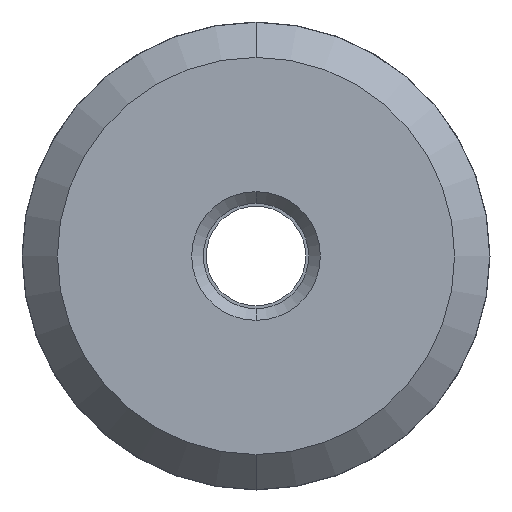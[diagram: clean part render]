
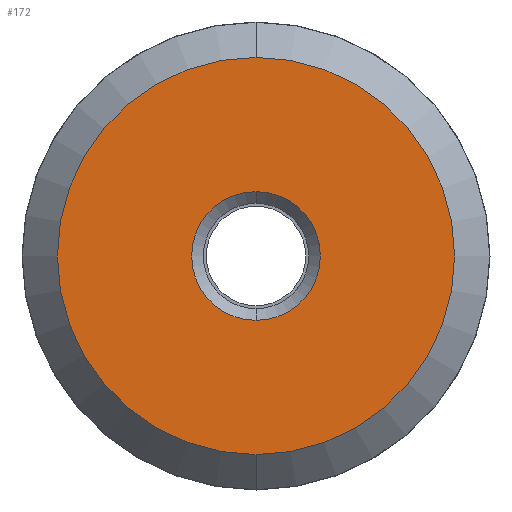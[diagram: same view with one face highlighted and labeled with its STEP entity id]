
A CAD part, front view. The second image highlights one B-rep face of the part: STEP entity #172.
In plain terms, the highlighted planar face has unit normal (0, -1, 0).
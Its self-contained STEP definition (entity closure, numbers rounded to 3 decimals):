
#70=CARTESIAN_POINT('Vertex',(0.,0.,5.5)) ;
#73=CARTESIAN_POINT('Axis2P3D Location',(0.,0.,0.)) ;
#77=CARTESIAN_POINT('Vertex',(0.,0.,-5.5)) ;
#133=CARTESIAN_POINT('Axis2P3D Location',(0.,0.,0.)) ;
#145=CARTESIAN_POINT('Axis2P3D Location',(0.,0.,0.)) ;
#150=CARTESIAN_POINT('Axis2P3D Location',(0.,0.,0.)) ;
#154=CARTESIAN_POINT('Vertex',(0.,0.,16.975)) ;
#156=CARTESIAN_POINT('Vertex',(0.,0.,-16.975)) ;
#159=CARTESIAN_POINT('Axis2P3D Location',(0.,0.,0.)) ;
#74=DIRECTION('Axis2P3D Direction',(0.,-1.,-0.)) ;
#134=DIRECTION('Axis2P3D Direction',(0.,-1.,-0.)) ;
#146=DIRECTION('Axis2P3D Direction',(0.,-1.,0.)) ;
#147=DIRECTION('Axis2P3D XDirection',(0.,0.,-1.)) ;
#151=DIRECTION('Axis2P3D Direction',(0.,-1.,0.)) ;
#160=DIRECTION('Axis2P3D Direction',(0.,-1.,0.)) ;
#75=AXIS2_PLACEMENT_3D('Circle Axis2P3D',#73,#74,$) ;
#135=AXIS2_PLACEMENT_3D('Circle Axis2P3D',#133,#134,$) ;
#148=AXIS2_PLACEMENT_3D('Plane Axis2P3D',#145,#146,#147) ;
#152=AXIS2_PLACEMENT_3D('Circle Axis2P3D',#150,#151,$) ;
#161=AXIS2_PLACEMENT_3D('Circle Axis2P3D',#159,#160,$) ;
#165=ORIENTED_EDGE('',*,*,#158,.T.) ;
#166=ORIENTED_EDGE('',*,*,#163,.T.) ;
#169=ORIENTED_EDGE('',*,*,#79,.T.) ;
#170=ORIENTED_EDGE('',*,*,#137,.T.) ;
#171=FACE_BOUND('',#168,.T.) ;
#172=ADVANCED_FACE('Smusso1',(#167,#171),#149,.T.) ;
#76=CIRCLE('generated circle',#75,5.5) ;
#136=CIRCLE('generated circle',#135,5.5) ;
#153=CIRCLE('generated circle',#152,16.975) ;
#162=CIRCLE('generated circle',#161,16.975) ;
#79=EDGE_CURVE('',#78,#71,#76,.F.) ;
#137=EDGE_CURVE('',#71,#78,#136,.F.) ;
#158=EDGE_CURVE('',#155,#157,#153,.T.) ;
#163=EDGE_CURVE('',#157,#155,#162,.T.) ;
#164=EDGE_LOOP('',(#165,#166)) ;
#168=EDGE_LOOP('',(#169,#170)) ;
#167=FACE_OUTER_BOUND('',#164,.T.) ;
#149=PLANE('Plane',#148) ;
#71=VERTEX_POINT('',#70) ;
#78=VERTEX_POINT('',#77) ;
#155=VERTEX_POINT('',#154) ;
#157=VERTEX_POINT('',#156) ;
